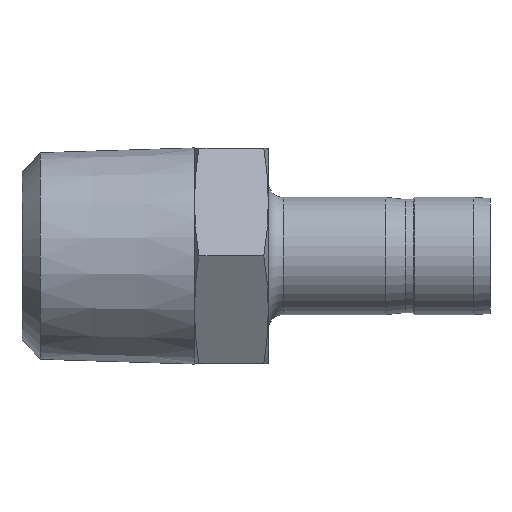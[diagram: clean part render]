
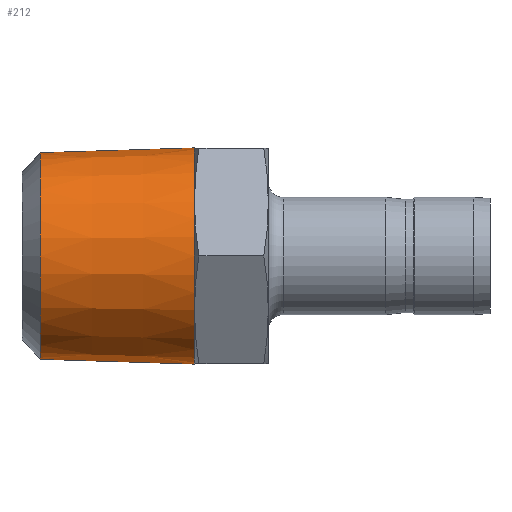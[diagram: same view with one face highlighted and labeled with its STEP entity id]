
A CAD part, front view. The second image highlights one B-rep face of the part: STEP entity #212.
In plain terms, the highlighted conical face has half-angle 1.8 degrees and reference radius 8.527 mm.
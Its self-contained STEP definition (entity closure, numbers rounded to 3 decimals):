
#209 = EDGE_LOOP ( 'NONE', ( #213, #215, #218, #221 ) ) ;
#212 = ADVANCED_FACE ( 'NONE', ( #819 ), #817, .T. ) ;
#213 = ORIENTED_EDGE ( 'NONE', *, *, #214, .T. ) ;
#214 = EDGE_CURVE ( 'NONE', #273, #274, #813, .T. ) ;
#215 = ORIENTED_EDGE ( 'NONE', *, *, #216, .T. ) ;
#216 = EDGE_CURVE ( 'NONE', #274, #217, #808, .T. ) ;
#217 = VERTEX_POINT ( 'NONE', #804 ) ;
#218 = ORIENTED_EDGE ( 'NONE', *, *, #219, .T. ) ;
#219 = EDGE_CURVE ( 'NONE', #217, #220, #803, .T. ) ;
#220 = VERTEX_POINT ( 'NONE', #798 ) ;
#221 = ORIENTED_EDGE ( 'NONE', *, *, #222, .F. ) ;
#222 = EDGE_CURVE ( 'NONE', #273, #220, #797, .T. ) ;
#273 = VERTEX_POINT ( 'NONE', #912 ) ;
#274 = VERTEX_POINT ( 'NONE', #911 ) ;
#794 = DIRECTION ( 'NONE',  ( 1., 0., 0.031 ) ) ;
#795 = VECTOR ( 'NONE', #794, 1000. ) ;
#796 = CARTESIAN_POINT ( 'NONE',  ( -7.9, 0., 8.527 ) ) ;
#797 = LINE ( 'NONE', #796, #795 ) ;
#798 = CARTESIAN_POINT ( 'NONE',  ( 0., 0., 8.776 ) ) ;
#799 = DIRECTION ( 'NONE',  ( 0., 0., 1. ) ) ;
#800 = DIRECTION ( 'NONE',  ( -1., 0., 0. ) ) ;
#801 = CARTESIAN_POINT ( 'NONE',  ( 0., 0., 0. ) ) ;
#802 = AXIS2_PLACEMENT_3D ( 'NONE', #801, #800, #799 ) ;
#803 = CIRCLE ( 'NONE', #802, 8.776 ) ;
#804 = CARTESIAN_POINT ( 'NONE',  ( 0., 0., -8.776 ) ) ;
#805 = DIRECTION ( 'NONE',  ( 1., 0., -0.031 ) ) ;
#806 = VECTOR ( 'NONE', #805, 1000. ) ;
#807 = CARTESIAN_POINT ( 'NONE',  ( -7.9, 0., -8.527 ) ) ;
#808 = LINE ( 'NONE', #807, #806 ) ;
#809 = DIRECTION ( 'NONE',  ( 0., 0., -1. ) ) ;
#810 = DIRECTION ( 'NONE',  ( 1., 0., 0. ) ) ;
#811 = CARTESIAN_POINT ( 'NONE',  ( -12.501, 0., 0. ) ) ;
#812 = AXIS2_PLACEMENT_3D ( 'NONE', #811, #810, #809 ) ;
#813 = CIRCLE ( 'NONE', #812, 8.383 ) ;
#814 = DIRECTION ( 'NONE',  ( 0., 0., 1. ) ) ;
#815 = DIRECTION ( 'NONE',  ( 1., 0., 0. ) ) ;
#816 = AXIS2_PLACEMENT_3D ( 'NONE', #818, #815, #814 ) ;
#817 = CONICAL_SURFACE ( 'NONE', #816, 8.527, 0.031 ) ;
#818 = CARTESIAN_POINT ( 'NONE',  ( -7.9, 0., 0. ) ) ;
#819 = FACE_OUTER_BOUND ( 'NONE', #209, .T. ) ;
#911 = CARTESIAN_POINT ( 'NONE',  ( -12.501, 0., -8.383 ) ) ;
#912 = CARTESIAN_POINT ( 'NONE',  ( -12.501, 0., 8.383 ) ) ;
